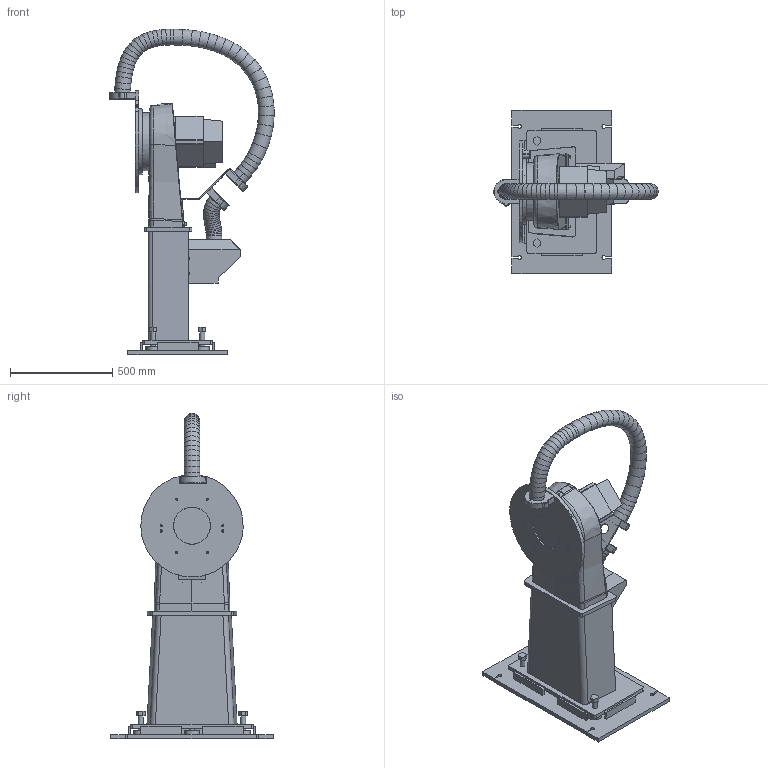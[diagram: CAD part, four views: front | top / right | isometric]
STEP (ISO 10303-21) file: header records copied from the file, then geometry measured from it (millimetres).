
FILE_DESCRIPTION(/* description */ (''),/* implementation_level */ '2;1');
FILE_NAME(/* name */ 'KP1-H1000 R1000-2.stp',/* time_stamp */ '2021-06-30T15:13:06+02:00',/* author */ (''),/* organization */ (''),/* preprocessor_version */ 'ST-DEVELOPER v16.7',/* originating_system */ 'SIEMENS PLM Software NX 12.0',/* authorisation */ '');
FILE_SCHEMA (('AUTOMOTIVE_DESIGN { 1 0 10303 214 3 1 1 1 }'));
Length unit declared in the file: millimetre
Products named in the file (1): WOER67BC0785g8xw
Bounding box: 802.6 x 800 x 1589.29 mm (x, y, z)
Volume: 94959594.9 mm3; surface area: 5173042.3 mm2
Topology: 5 solids, 7 shells, 844 faces, 2138 edges, 1373 vertices
Faces by surface type: plane 371, cylinder 243, torus 154, cone 34, bspline 22, extrusion 20
Full cylindrical faces by diameter (mm): 5 x4, 6 x4, 6.4 x4, 6.8 x9, 8 x6, 8.4 x2, 9 x2, 10 x4, 10.3 x7, 11.6 x1, 11.99 x2, 12 x4, 13 x2, 14 x8, 17 x2, 18 x4, 20 x2, 21 x3, 24 x3, 26 x4, 50 x1, 60 x1, 65 x3, 70 x5, 76.6 x4, 90 x3, 180 x1, 283 x1
Entity records: 30716 total; most frequent: CARTESIAN_POINT 7782, DIRECTION 3904, ORIENTED_EDGE 3584, EDGE_CURVE 1792, AXIS2_PLACEMENT_3D 1521, VERTEX_POINT 1294, EDGE_LOOP 1192, VECTOR 862
